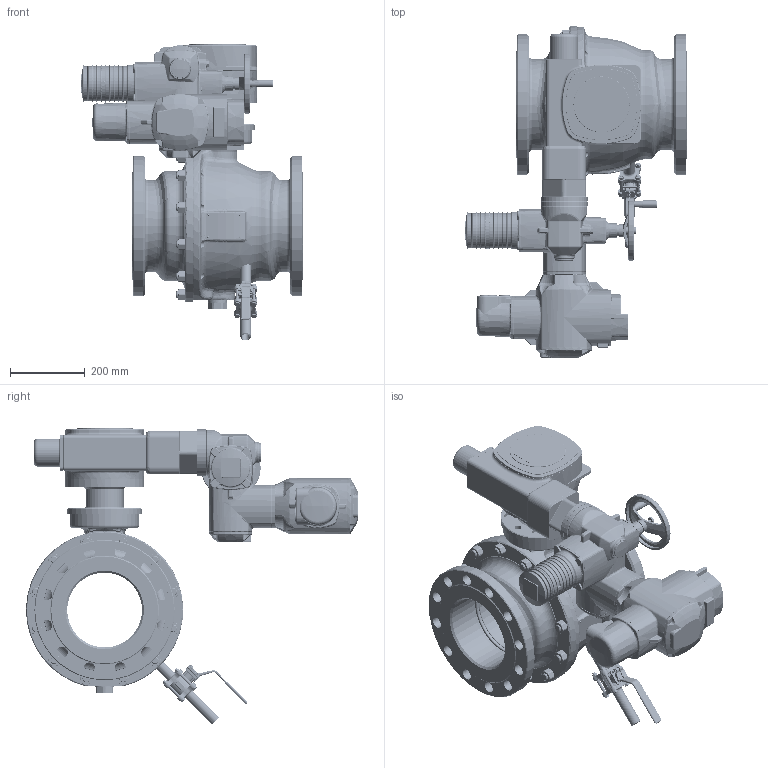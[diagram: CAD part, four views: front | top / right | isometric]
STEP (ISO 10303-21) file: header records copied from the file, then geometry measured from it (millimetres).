
FILE_DESCRIPTION((''),'2;1');
FILE_NAME('250_ASM','2017-01-17T',('schwaba'),('RAND'),'PRO/ENGINEER BY PARAMETRIC TECHNOLOGY CORPORATION, 2016100','PRO/ENGINEER BY PARAMETRIC TECHNOLOGY CORPORATION, 2016100','');
FILE_SCHEMA(('CONFIG_CONTROL_DESIGN'));
Products named in the file (3): KHI_200_PN40_FR_WE_ENTL_O_IT; GS100_F16_SA07_AM_ZWSTK_DN200; 250_ASM
Assembly tree (2 placements, depth 2):
  250_ASM
    KHI_200_PN40_FR_WE_ENTL_O_IT
    GS100_F16_SA07_AM_ZWSTK_DN200
Bounding box: 593.5 x 886.98 x 793.16 mm (x, y, z)
Volume: 39243520.4 mm3; surface area: 3517560.3 mm2
Topology: 3 solids, 11 shells, 5900 faces, 14448 edges, 8690 vertices
Faces by surface type: plane 1860, bspline 1305, cylinder 1263, torus 702, cone 656, sphere 114
Entity records: 366594 total; most frequent: CARTESIAN_POINT 236265, ORIENTED_EDGE 28780, DIRECTION 25468, EDGE_CURVE 14390, AXIS2_PLACEMENT_3D 9965, VERTEX_POINT 8690, EDGE_LOOP 6230, FACE_OUTER_BOUND 5900
